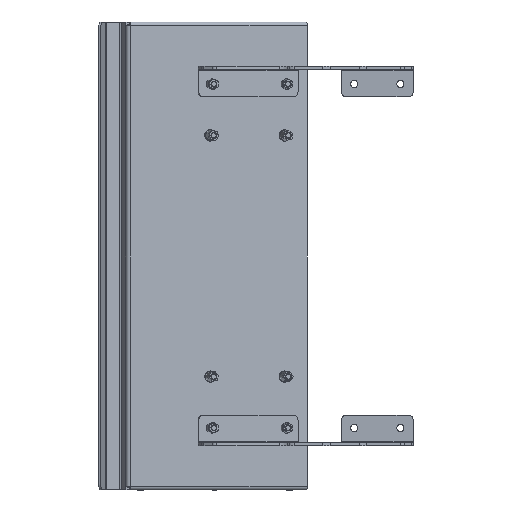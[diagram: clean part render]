
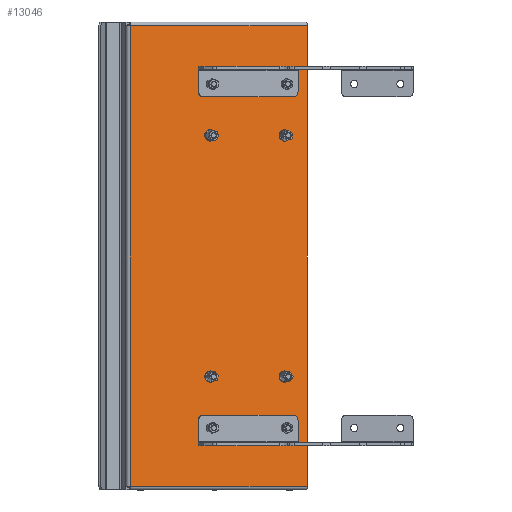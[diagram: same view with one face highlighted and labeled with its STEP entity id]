
A CAD part, front view. The second image highlights one B-rep face of the part: STEP entity #13046.
In plain terms, the highlighted planar face has unit normal (0.259, -0.966, 0).
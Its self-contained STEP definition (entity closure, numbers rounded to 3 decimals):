
#399 = CIRCLE ( 'NONE', #6260, 5.3 ) ;
#482 = DIRECTION ( 'NONE',  ( -0.259, 0.966, 0. ) ) ;
#1342 = CARTESIAN_POINT ( 'NONE',  ( -42.935, 24.344, 217.408 ) ) ;
#1579 = VECTOR ( 'NONE', #15974, 1000. ) ;
#1631 = CIRCLE ( 'NONE', #18748, 5.3 ) ;
#1736 = AXIS2_PLACEMENT_3D ( 'NONE', #19296, #482, #7674 ) ;
#1831 = FACE_BOUND ( 'NONE', #24887, .T. ) ;
#2038 = VERTEX_POINT ( 'NONE', #27578 ) ;
#2055 = VERTEX_POINT ( 'NONE', #8810 ) ;
#2129 = FACE_BOUND ( 'NONE', #26063, .T. ) ;
#2135 = DIRECTION ( 'NONE',  ( 0., 0., 1. ) ) ;
#2289 = DIRECTION ( 'NONE',  ( 0., 0., 1. ) ) ;
#2839 = CARTESIAN_POINT ( 'NONE',  ( -115.38, 4.933, 552.408 ) ) ;
#3524 = EDGE_LOOP ( 'NONE', ( #11715 ) ) ;
#3623 = VERTEX_POINT ( 'NONE', #1342 ) ;
#3802 = ORIENTED_EDGE ( 'NONE', *, *, #21781, .T. ) ;
#3948 = EDGE_CURVE ( 'NONE', #17009, #17009, #1631, .T. ) ;
#3974 = FACE_BOUND ( 'NONE', #9724, .T. ) ;
#4047 = EDGE_LOOP ( 'NONE', ( #27303 ) ) ;
#4115 = CARTESIAN_POINT ( 'NONE',  ( -43.568, 24.175, 491.849 ) ) ;
#4429 = FACE_BOUND ( 'NONE', #4047, .T. ) ;
#4506 = VECTOR ( 'NONE', #13304, 1000. ) ;
#4576 = CARTESIAN_POINT ( 'NONE',  ( -107.652, 7.003, 379.608 ) ) ;
#4622 = AXIS2_PLACEMENT_3D ( 'NONE', #18998, #23724, #12109 ) ;
#5226 = EDGE_LOOP ( 'NONE', ( #27506 ) ) ;
#6091 = LINE ( 'NONE', #16866, #19663 ) ;
#6260 = AXIS2_PLACEMENT_3D ( 'NONE', #8742, #7032, #2135 ) ;
#6414 = PLANE ( 'NONE',  #24430 ) ;
#6625 = CARTESIAN_POINT ( 'NONE',  ( -193.137, -15.902, 155.108 ) ) ;
#6889 = EDGE_CURVE ( 'NONE', #15755, #15755, #8614, .T. ) ;
#6948 = VERTEX_POINT ( 'NONE', #26606 ) ;
#6962 = VERTEX_POINT ( 'NONE', #12261 ) ;
#7032 = DIRECTION ( 'NONE',  ( -0.259, 0.966, 0. ) ) ;
#7561 = CIRCLE ( 'NONE', #4622, 5.3 ) ;
#7674 = DIRECTION ( 'NONE',  ( -0.119, -0.032, -0.992 ) ) ;
#7894 = DIRECTION ( 'NONE',  ( 0., 0., -1. ) ) ;
#8614 = CIRCLE ( 'NONE', #1736, 5.3 ) ;
#8742 = CARTESIAN_POINT ( 'NONE',  ( -42.935, 24.344, 212.108 ) ) ;
#8810 = CARTESIAN_POINT ( 'NONE',  ( -115.38, 4.933, 217.408 ) ) ;
#9724 = EDGE_LOOP ( 'NONE', ( #14720 ) ) ;
#9907 = AXIS2_PLACEMENT_3D ( 'NONE', #12059, #16511, #25827 ) ;
#9912 = DIRECTION ( 'NONE',  ( 0., 0., 1. ) ) ;
#10066 = CARTESIAN_POINT ( 'NONE',  ( -115.38, 4.933, 212.108 ) ) ;
#10187 = CARTESIAN_POINT ( 'NONE',  ( -193.137, -15.902, 607.608 ) ) ;
#10210 = EDGE_CURVE ( 'NONE', #22554, #15735, #29139, .T. ) ;
#10272 = EDGE_CURVE ( 'NONE', #3623, #3623, #399, .T. ) ;
#10515 = DIRECTION ( 'NONE',  ( 0., 0., 1. ) ) ;
#11016 = FACE_BOUND ( 'NONE', #11152, .T. ) ;
#11152 = EDGE_LOOP ( 'NONE', ( #14781 ) ) ;
#11176 = FACE_BOUND ( 'NONE', #26996, .T. ) ;
#11715 = ORIENTED_EDGE ( 'NONE', *, *, #27814, .T. ) ;
#12059 = CARTESIAN_POINT ( 'NONE',  ( -115.38, 4.933, 547.108 ) ) ;
#12109 = DIRECTION ( 'NONE',  ( 0.461, 0.123, 0.879 ) ) ;
#12261 = CARTESIAN_POINT ( 'NONE',  ( -20.719, 30.297, 155.108 ) ) ;
#12409 = CARTESIAN_POINT ( 'NONE',  ( -42.935, 24.344, 552.408 ) ) ;
#12811 = DIRECTION ( 'NONE',  ( -0.259, 0.966, 0. ) ) ;
#13046 = ADVANCED_FACE ( 'NONE', ( #11016, #24947, #4429, #11176, #16070, #2129, #3974, #1831, #29822 ), #6414, .F. ) ;
#13126 = CARTESIAN_POINT ( 'NONE',  ( -120.427, 3.58, 261.224 ) ) ;
#13304 = DIRECTION ( 'NONE',  ( 0., 0., -1. ) ) ;
#13326 = AXIS2_PLACEMENT_3D ( 'NONE', #10066, #28722, #9912 ) ;
#13608 = VECTOR ( 'NONE', #7894, 1000. ) ;
#13778 = DIRECTION ( 'NONE',  ( -0.259, 0.966, 0. ) ) ;
#14232 = CARTESIAN_POINT ( 'NONE',  ( -115.38, 4.933, 262.108 ) ) ;
#14290 = CARTESIAN_POINT ( 'NONE',  ( -115.38, 4.933, 497.108 ) ) ;
#14602 = DIRECTION ( 'NONE',  ( -0.925, -0.248, 0.289 ) ) ;
#14711 = EDGE_CURVE ( 'NONE', #2055, #2055, #27465, .T. ) ;
#14720 = ORIENTED_EDGE ( 'NONE', *, *, #14711, .T. ) ;
#14781 = ORIENTED_EDGE ( 'NONE', *, *, #3948, .T. ) ;
#14786 = AXIS2_PLACEMENT_3D ( 'NONE', #14290, #23462, #14602 ) ;
#15113 = ORIENTED_EDGE ( 'NONE', *, *, #24868, .T. ) ;
#15573 = AXIS2_PLACEMENT_3D ( 'NONE', #14232, #23547, #21251 ) ;
#15735 = VERTEX_POINT ( 'NONE', #17491 ) ;
#15755 = VERTEX_POINT ( 'NONE', #4115 ) ;
#15974 = DIRECTION ( 'NONE',  ( 0.966, 0.259, 0. ) ) ;
#16070 = FACE_BOUND ( 'NONE', #3524, .T. ) ;
#16301 = ORIENTED_EDGE ( 'NONE', *, *, #24546, .F. ) ;
#16511 = DIRECTION ( 'NONE',  ( -0.259, 0.966, 0. ) ) ;
#16866 = CARTESIAN_POINT ( 'NONE',  ( -20.719, 30.297, 604.108 ) ) ;
#17009 = VERTEX_POINT ( 'NONE', #12409 ) ;
#17215 = VERTEX_POINT ( 'NONE', #2839 ) ;
#17255 = ORIENTED_EDGE ( 'NONE', *, *, #10210, .T. ) ;
#17491 = CARTESIAN_POINT ( 'NONE',  ( -193.137, -15.902, 155.108 ) ) ;
#17726 = CIRCLE ( 'NONE', #9907, 5.3 ) ;
#18264 = LINE ( 'NONE', #6625, #1579 ) ;
#18638 = ORIENTED_EDGE ( 'NONE', *, *, #24606, .T. ) ;
#18748 = AXIS2_PLACEMENT_3D ( 'NONE', #20432, #12811, #10515 ) ;
#18756 = ORIENTED_EDGE ( 'NONE', *, *, #10272, .T. ) ;
#18998 = CARTESIAN_POINT ( 'NONE',  ( -42.935, 24.344, 262.108 ) ) ;
#19296 = CARTESIAN_POINT ( 'NONE',  ( -42.935, 24.344, 497.108 ) ) ;
#19520 = VERTEX_POINT ( 'NONE', #21654 ) ;
#19663 = VECTOR ( 'NONE', #26186, 1000. ) ;
#19885 = LINE ( 'NONE', #26895, #4506 ) ;
#20432 = CARTESIAN_POINT ( 'NONE',  ( -42.935, 24.344, 547.108 ) ) ;
#21251 = DIRECTION ( 'NONE',  ( -0.952, -0.255, -0.167 ) ) ;
#21654 = CARTESIAN_POINT ( 'NONE',  ( -120.28, 3.62, 498.641 ) ) ;
#21677 = EDGE_LOOP ( 'NONE', ( #23579, #16301, #18638, #17255 ) ) ;
#21781 = EDGE_CURVE ( 'NONE', #26865, #26865, #28748, .T. ) ;
#22554 = VERTEX_POINT ( 'NONE', #29168 ) ;
#23462 = DIRECTION ( 'NONE',  ( -0.259, 0.966, 0. ) ) ;
#23547 = DIRECTION ( 'NONE',  ( -0.259, 0.966, 0. ) ) ;
#23579 = ORIENTED_EDGE ( 'NONE', *, *, #25636, .T. ) ;
#23724 = DIRECTION ( 'NONE',  ( -0.259, 0.966, 0. ) ) ;
#24430 = AXIS2_PLACEMENT_3D ( 'NONE', #4576, #13778, #2289 ) ;
#24546 = EDGE_CURVE ( 'NONE', #6948, #6962, #19885, .T. ) ;
#24606 = EDGE_CURVE ( 'NONE', #6948, #22554, #6091, .T. ) ;
#24868 = EDGE_CURVE ( 'NONE', #17215, #17215, #17726, .T. ) ;
#24887 = EDGE_LOOP ( 'NONE', ( #3802 ) ) ;
#24947 = FACE_BOUND ( 'NONE', #5226, .T. ) ;
#25636 = EDGE_CURVE ( 'NONE', #15735, #6962, #18264, .T. ) ;
#25750 = EDGE_CURVE ( 'NONE', #19520, #19520, #29910, .T. ) ;
#25827 = DIRECTION ( 'NONE',  ( 0., 0., 1. ) ) ;
#26063 = EDGE_LOOP ( 'NONE', ( #18756 ) ) ;
#26186 = DIRECTION ( 'NONE',  ( -0.966, -0.259, 0. ) ) ;
#26606 = CARTESIAN_POINT ( 'NONE',  ( -20.719, 30.297, 604.108 ) ) ;
#26865 = VERTEX_POINT ( 'NONE', #13126 ) ;
#26895 = CARTESIAN_POINT ( 'NONE',  ( -20.719, 30.297, 151.608 ) ) ;
#26996 = EDGE_LOOP ( 'NONE', ( #15113 ) ) ;
#27303 = ORIENTED_EDGE ( 'NONE', *, *, #25750, .T. ) ;
#27465 = CIRCLE ( 'NONE', #13326, 5.3 ) ;
#27506 = ORIENTED_EDGE ( 'NONE', *, *, #6889, .T. ) ;
#27578 = CARTESIAN_POINT ( 'NONE',  ( -40.494, 24.998, 266.767 ) ) ;
#27814 = EDGE_CURVE ( 'NONE', #2038, #2038, #7561, .T. ) ;
#28722 = DIRECTION ( 'NONE',  ( -0.259, 0.966, 0. ) ) ;
#28748 = CIRCLE ( 'NONE', #15573, 5.3 ) ;
#29139 = LINE ( 'NONE', #10187, #13608 ) ;
#29168 = CARTESIAN_POINT ( 'NONE',  ( -193.137, -15.902, 604.108 ) ) ;
#29822 = FACE_OUTER_BOUND ( 'NONE', #21677, .T. ) ;
#29910 = CIRCLE ( 'NONE', #14786, 5.3 ) ;
